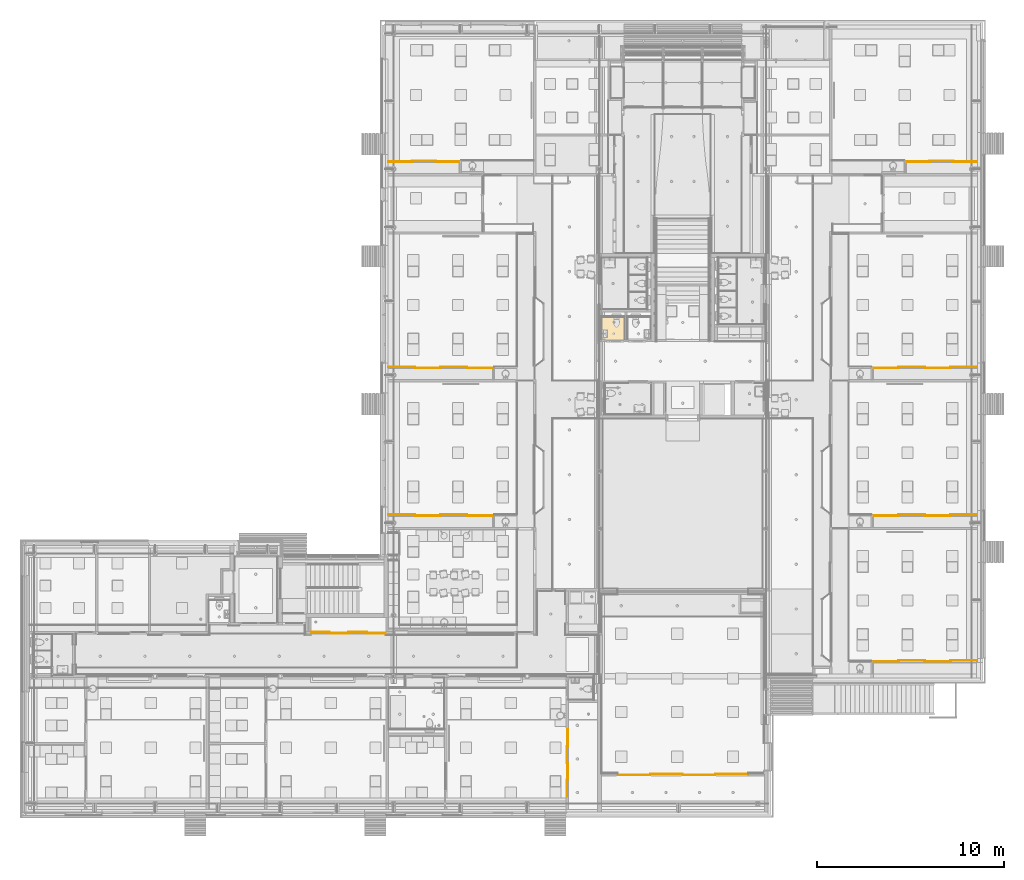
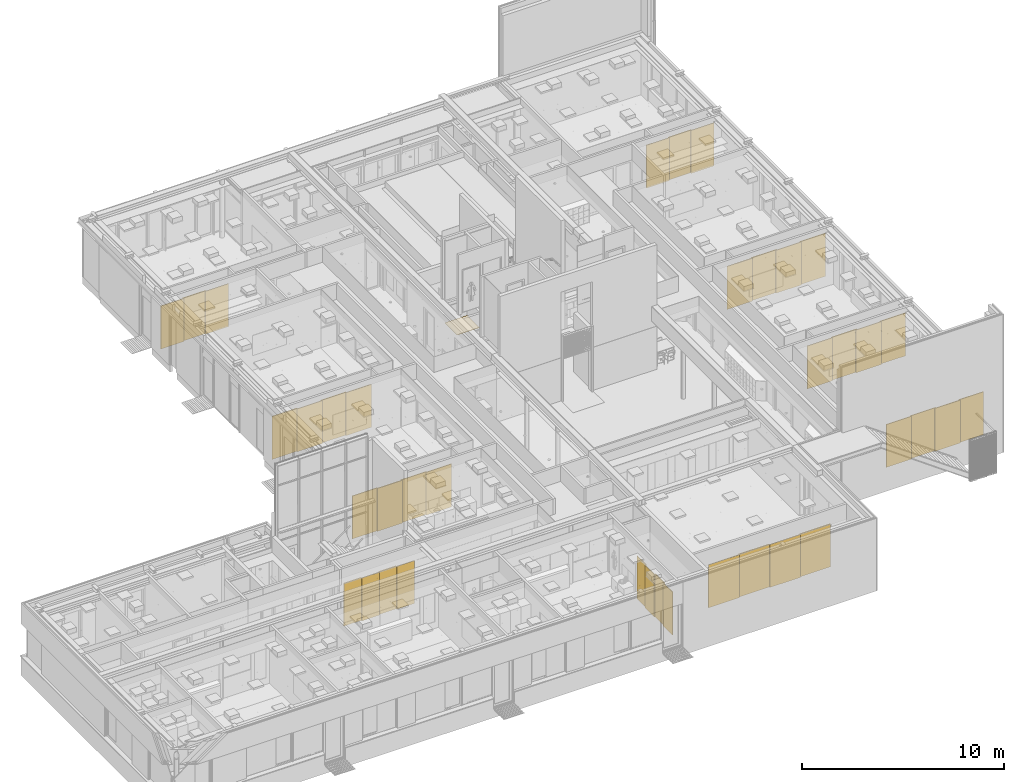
# One storey, part 151 of 347: 38 doors, 1 covering.
"""IFC2X3 building model written with IfcOpenShell, lengths in millimetres."""

from ifc_helpers import new_model, entity, si_unit, converted_unit, derived_unit, money_unit, direction, frame, origin_with_axes, place, context, subcontext, project, spatial, faceted_brep, source, transform, mapped, type_object, type_shapes, element, save


model = new_model("IFC2X3")

# Units and contexts
model_context = context("Model", 3, precision=0.01, world=origin_with_axes(), true_north=direction((0.0, 1.0)))
plan_context = context("Plan", 3, precision=0.01, world=origin_with_axes(), true_north=direction((0.0, 1.0)))
body_context = subcontext(model_context, "Body", "Model", "MODEL_VIEW")
ifc_project = project(units=[si_unit("LENGTHUNIT", "METRE", prefix="MILLI"), si_unit("AREAUNIT", "SQUARE_METRE"), si_unit("VOLUMEUNIT", "CUBIC_METRE"), converted_unit("PLANEANGLEUNIT", "DEGREE", entity("IfcPlaneAngleMeasure", 0.0174532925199), si_unit("PLANEANGLEUNIT", "RADIAN"), dimensions=[0, 0, 0, 0, 0, 0, 0]), money_unit("EUR"), converted_unit("TIMEUNIT", "Year", entity("IfcTimeMeasure", 31556926.0), si_unit("TIMEUNIT", "SECOND"), dimensions=[0, 0, 1, 0, 0, 0, 0]), si_unit("MASSUNIT", "GRAM", prefix="KILO"), si_unit("THERMODYNAMICTEMPERATUREUNIT", "DEGREE_CELSIUS"), si_unit("LUMINOUSINTENSITYUNIT", "LUMEN"), si_unit("ENERGYUNIT", "JOULE", prefix="MEGA"), derived_unit("THERMALCONDUCTANCEUNIT", [(si_unit("POWERUNIT", "WATT"), 1), (si_unit("LENGTHUNIT", "METRE"), -1), (si_unit("THERMODYNAMICTEMPERATUREUNIT", "KELVIN"), -1)]), derived_unit("SPECIFICHEATCAPACITYUNIT", [(si_unit("ENERGYUNIT", "JOULE"), 1), (si_unit("MASSUNIT", "GRAM", prefix="KILO"), -1), (si_unit("THERMODYNAMICTEMPERATUREUNIT", "KELVIN"), -1)]), derived_unit("MASSDENSITYUNIT", [(si_unit("MASSUNIT", "GRAM", prefix="KILO"), 1), (si_unit("VOLUMEUNIT", "CUBIC_METRE"), -1)])], contexts=[model_context, plan_context])

# Site, building, storey
site_placement = place(None, origin_with_axes())
site = spatial("IfcSite", under=ifc_project, at=site_placement, Name="Site", CompositionType="ELEMENT")
building_placement = place(site_placement, origin_with_axes())
building = spatial("IfcBuilding", under=site, at=building_placement, Name="Naam gebouw", CompositionType="ELEMENT")
storey_placement = place(building_placement, origin_with_axes())
storey = spatial("IfcBuildingStorey", under=building, at=storey_placement, Name="begane grond", CompositionType="ELEMENT", Elevation=0.0)

# Doors
door_style_1 = type_object("IfcDoorStyle", Name="DS1 voor wand 25", ConstructionType="NOTDEFINED", OperationType="SLIDING_TO_RIGHT", ParameterTakesPrecedence=False, Sizeable=False)
for number, where, z_axis, x_axis, name in (
    (1, (20150.0, 14462.5, 10.0), (0.0, 0.0, 1.0), (1.0, 0.0, 0.0), "32_01."),
    (2, (22150.0, 14462.5, 10.0), (0.0, 0.0, 1.0), (-1.0, 0.0, 0.0), "32_01."),
    (3, (22150.0, 14462.5, 10.0), (0.0, 0.0, 1.0), (1.0, 0.0, 0.0), "32_01."),
    (4, (24150.0, 14462.5, 10.0), (0.0, 0.0, 1.0), (-1.0, 0.0, 0.0), "32_01."),
):
    element("IfcDoor", number, at=place(storey_placement, frame(where, z_axis=z_axis, x_axis=x_axis)), inside=storey, type_object=door_style_1, Name=name, ObjectType="DOOR", OverallHeight=2590.0, OverallWidth=1000.0, context=body_context, shape_type="Brep", body=[
        faceted_brep([(1000.0, 45.5, 0.0), (1000.0, 5.5, 0.0), (0.0, 5.5, 0.0), (0.0, 45.5, 0.0), (1000.0, 45.5, 2590.0), (1000.0, 5.5, 2590.0), (0.0, 5.5, 2590.0), (0.0, 45.5, 2590.0)], [[[0, 1, 2, 3]], [[4, 5, 1, 0]], [[1, 5, 6, 2]], [[3, 2, 6, 7]], [[0, 3, 7, 4]], [[7, 6, 5, 4]]]),
    ])
shared_shape_1 = source(origin_with_axes(), body_context, "Body", "Brep", [
    faceted_brep([(450.0, 46.0, 0.0), (450.0, 6.0, 0.0), (-450.0, 6.0, 0.0), (-450.0, 46.0, 0.0), (450.0, 46.0, 2590.0), (450.0, 6.0, 2590.0), (-450.0, 6.0, 2590.0), (-450.0, 46.0, 2590.0)], [[[0, 1, 2, 3]], [[4, 5, 1, 0]], [[1, 5, 6, 2]], [[3, 2, 6, 7]], [[0, 3, 7, 4]], [[7, 6, 5, 4]]]),
])
door_1_placement = place(storey_placement, frame((33887.5, 9277.5, 10.0), z_axis=(0.0, 0.0, 1.0), x_axis=(0.0, -1.0, 0.0)))
element("IfcDoor", 5, at=door_1_placement, inside=storey, type_object=door_style_1, Name="32_01.", ObjectType="DOOR", OverallHeight=2590.0, OverallWidth=900.0, context=body_context, shape_type="MappedRepresentation", body=[
    mapped(shared_shape_1, transform((450.0, -0.499999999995, 0.0))),
])
door_2_placement = place(storey_placement, frame((33887.5, 7477.5, 10.0), z_axis=(0.0, 0.0, 1.0), x_axis=(0.0, 1.0, 0.0)))
element("IfcDoor", 6, at=door_2_placement, inside=storey, type_object=door_style_1, Name="32_01.", ObjectType="DOOR", OverallHeight=2590.0, OverallWidth=900.0, context=body_context, shape_type="MappedRepresentation", body=[
    mapped(shared_shape_1, transform((450.0, -0.500000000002, 0.0))),
])
door_3_placement = place(storey_placement, frame((33887.5, 7477.5, 10.0), z_axis=(0.0, 0.0, 1.0), x_axis=(0.0, -1.0, 0.0)))
element("IfcDoor", 7, at=door_3_placement, inside=storey, type_object=door_style_1, Name="32_01.", ObjectType="DOOR", OverallHeight=2590.0, OverallWidth=900.0, context=body_context, shape_type="MappedRepresentation", body=[
    mapped(shared_shape_1, transform((450.0, -0.499999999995, 0.0))),
])
door_4_placement = place(storey_placement, frame((33887.5, 5677.5, 10.0), z_axis=(0.0, 0.0, 1.0), x_axis=(0.0, 1.0, 0.0)))
element("IfcDoor", 8, at=door_4_placement, inside=storey, type_object=door_style_1, Name="32_01.", ObjectType="DOOR", OverallHeight=2590.0, OverallWidth=900.0, context=body_context, shape_type="MappedRepresentation", body=[
    mapped(shared_shape_1, transform((450.0, -0.500000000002, 0.0))),
])
door_style_2 = type_object("IfcDoorStyle", Name="DS1 voor wand 25", ConstructionType="NOTDEFINED", OperationType="SLIDING_TO_LEFT", ParameterTakesPrecedence=False, Sizeable=False)
shared_shape_2 = source(origin_with_axes(), body_context, "Body", "Brep", [
    faceted_brep([(-875.0, 46.0, 0.0), (875.0, 46.0, 0.0), (875.0, 6.0, 0.0), (-875.0, 6.0, 0.0), (-875.0, 46.0, 2590.0), (875.0, 46.0, 2590.0), (875.0, 6.0, 2590.0), (-875.0, 6.0, 2590.0)], [[[0, 1, 2, 3]], [[0, 4, 5, 1]], [[1, 5, 6, 2]], [[3, 2, 6, 7]], [[4, 0, 3, 7]], [[5, 4, 7, 6]]]),
])
door_5_placement = place(storey_placement, frame((41825.0, 6865.00953644, 10.0), z_axis=(0.0, 0.0, 1.0), x_axis=(-1.0, 0.0, 0.0)))
element("IfcDoor", 9, at=door_5_placement, inside=storey, type_object=door_style_2, Name="32_01.", ObjectType="DOOR", OverallHeight=2590.0, OverallWidth=1750.0, context=body_context, shape_type="MappedRepresentation", body=[
    mapped(shared_shape_2, transform((875.0, -0.500000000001, 0.0))),
])
door_6_placement = place(storey_placement, frame((41825.0, 6865.00953644, 10.0), z_axis=(0.0, 0.0, 1.0), x_axis=(1.0, 0.0, 0.0)))
element("IfcDoor", 10, at=door_6_placement, inside=storey, type_object=door_style_2, Name="32_01.", ObjectType="DOOR", OverallHeight=2590.0, OverallWidth=1750.0, context=body_context, shape_type="MappedRepresentation", body=[
    mapped(shared_shape_2, transform((875.0, -0.499999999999, 0.0))),
])
door_7_placement = place(storey_placement, frame((54425.0043771, 12949.9986591, 10.0), z_axis=(0.0, 0.0, 1.0), x_axis=(1.0, -3.20021193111e-07, 0.0)))
element("IfcDoor", 11, at=door_7_placement, inside=storey, type_object=door_style_2, Name="32_01.", ObjectType="DOOR", OverallHeight=2590.0, OverallWidth=1389.0, context=body_context, shape_type="Brep", body=[
    faceted_brep([(0.0, 45.5, 0.0), (1388.99561957, 45.5, 0.0), (1388.99561957, 5.5, 0.0), (0.0, 5.5, 0.0), (0.0, 45.5, 2590.0), (1388.99561957, 45.5, 2590.0), (1388.99561957, 5.5, 2590.0), (0.0, 5.5, 2590.0)], [[[0, 1, 2, 3]], [[0, 4, 5, 1]], [[1, 5, 6, 2]], [[3, 2, 6, 7]], [[4, 0, 3, 7]], [[5, 4, 7, 6]]]),
])
shared_shape_3 = source(origin_with_axes(), body_context, "Body", "Brep", [
    faceted_brep([(-875.0, 45.0, 0.0), (875.0, 45.0, 0.0), (875.0, 5.0, 0.0), (-875.0, 5.0, 0.0), (-875.0, 45.0, 2590.0), (875.0, 45.0, 2590.0), (875.0, 5.0, 2590.0), (-875.0, 5.0, 2590.0)], [[[0, 1, 2, 3]], [[0, 4, 5, 1]], [[1, 5, 6, 2]], [[3, 2, 6, 7]], [[4, 0, 3, 7]], [[5, 4, 7, 6]]]),
])
door_8_placement = place(storey_placement, frame((38325.0, 6865.00953644, 10.0), z_axis=(0.0, 0.0, 1.0), x_axis=(1.0, 0.0, 0.0)))
element("IfcDoor", 12, at=door_8_placement, inside=storey, type_object=door_style_2, Name="32_01.", ObjectType="DOOR", OverallHeight=2590.0, OverallWidth=1750.0, context=body_context, shape_type="MappedRepresentation", body=[
    mapped(shared_shape_3, transform((875.0, 0.500000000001, 0.0))),
])
door_9_placement = place(storey_placement, frame((38325.0, 6865.00953644, 10.0), z_axis=(0.0, 0.0, 1.0), x_axis=(-1.0, 0.0, 0.0)))
element("IfcDoor", 13, at=door_9_placement, inside=storey, type_object=door_style_2, Name="32_01.", ObjectType="DOOR", OverallHeight=2590.0, OverallWidth=1750.0, context=body_context, shape_type="MappedRepresentation", body=[
    mapped(shared_shape_3, transform((875.0, 0.5, 0.0))),
])
shared_shape_4 = source(origin_with_axes(), body_context, "Body", "Brep", [
    faceted_brep([(725.0, 46.0, 0.0), (725.0, 6.0, 0.0), (-725.0, 6.0, 0.0), (-725.0, 46.0, 0.0), (725.0, 46.0, 2590.0), (725.0, 6.0, 2590.0), (-725.0, 6.0, 2590.0), (-725.0, 46.0, 2590.0)], [[[0, 1, 2, 3]], [[4, 5, 1, 0]], [[1, 5, 6, 2]], [[3, 2, 6, 7]], [[0, 3, 7, 4]], [[7, 6, 5, 4]]]),
])
for number, where, z_axis, x_axis, name in (
    (14, (29914.9957507, 28687.5000004, 10.0), (0.0, 0.0, 1.0), (-0.999999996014, 8.92857139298e-05, 0.0), "32_01."),
    (15, (29915.0045543, 20762.5, 10.0), (0.0, 0.0, 1.0), (-0.999999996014, 8.92857139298e-05, 0.0), "32_01."),
):
    element("IfcDoor", number, at=place(storey_placement, frame(where, z_axis=z_axis, x_axis=x_axis)), inside=storey, type_object=door_style_1, Name=name, ObjectType="DOOR", OverallHeight=2590.0, OverallWidth=1450.0, context=body_context, shape_type="MappedRepresentation", body=[
        mapped(shared_shape_4, transform((725.0, -0.500000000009, 0.0))),
    ])
shared_shape_5 = source(origin_with_axes(), body_context, "Body", "Brep", [
    faceted_brep([(725.0, 46.0, 0.0), (725.0, 6.0, 0.0), (-725.0, 6.0, 0.0), (-725.0, 46.0, 0.0), (725.0, 46.0, 2590.0), (725.0, 6.0, 2590.0), (-725.0, 6.0, 2590.0), (-725.0, 46.0, 2590.0)], [[[0, 1, 2, 3]], [[4, 5, 1, 0]], [[1, 5, 6, 2]], [[3, 2, 6, 7]], [[0, 3, 7, 4]], [[7, 6, 5, 4]]]),
])
door_10_placement = place(storey_placement, frame((27065.0001517, 28687.7544643, 10.0), z_axis=(0.0, 0.0, 1.0), x_axis=(0.999999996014, -8.92857139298e-05, 0.0)))
element("IfcDoor", 16, at=door_10_placement, inside=storey, type_object=door_style_1, Name="32_01.", ObjectType="DOOR", OverallHeight=2590.0, OverallWidth=1450.0, context=body_context, shape_type="MappedRepresentation", body=[
    mapped(shared_shape_5, transform((725.0, -0.499999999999, 0.0))),
])
door_11_placement = place(storey_placement, frame((27065.0089553, 20762.7544639, 10.0), z_axis=(0.0, 0.0, 1.0), x_axis=(0.999999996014, -8.92857139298e-05, 0.0)))
element("IfcDoor", 17, at=door_11_placement, inside=storey, type_object=door_style_1, Name="32_01.", ObjectType="DOOR", OverallHeight=2590.0, OverallWidth=1450.0, context=body_context, shape_type="MappedRepresentation", body=[
    mapped(shared_shape_5, transform((725.0, -0.500000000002, 0.0))),
])
shared_shape_6 = source(origin_with_axes(), body_context, "Body", "Brep", [
    faceted_brep([(725.0, 46.0, 0.0), (725.0, 6.0, 0.0), (-725.0, 6.0, 0.0), (-725.0, 46.0, 0.0), (725.0, 46.0, 2590.0), (725.0, 6.0, 2590.0), (-725.0, 6.0, 2590.0), (-725.0, 46.0, 2590.0)], [[[0, 1, 2, 3]], [[4, 5, 1, 0]], [[1, 5, 6, 2]], [[3, 2, 6, 7]], [[0, 3, 7, 4]], [[7, 6, 5, 4]]]),
])
for number, where, z_axis, x_axis, name in (
    (18, (27125.0001515, 28687.7491071, 10.0), (0.0, 0.0, 1.0), (-0.999999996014, 8.92857139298e-05, 0.0), "32_01."),
    (19, (27125.008955, 20762.7491067, 10.0), (0.0, 0.0, 1.0), (-0.999999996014, 8.92857139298e-05, 0.0), "32_01."),
):
    element("IfcDoor", number, at=place(storey_placement, frame(where, z_axis=z_axis, x_axis=x_axis)), inside=storey, type_object=door_style_1, Name=name, ObjectType="DOOR", OverallHeight=2590.0, OverallWidth=1450.0, context=body_context, shape_type="MappedRepresentation", body=[
        mapped(shared_shape_6, transform((725.0, -0.500000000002, 0.0))),
    ])
shared_shape_7 = source(origin_with_axes(), body_context, "Body", "Brep", [
    faceted_brep([(725.0, 46.0, 0.0), (725.0, 6.0, 0.0), (-725.0, 6.0, 0.0), (-725.0, 46.0, 0.0), (725.0, 46.0, 2590.0), (725.0, 6.0, 2590.0), (-725.0, 6.0, 2590.0), (-725.0, 46.0, 2590.0)], [[[0, 1, 2, 3]], [[4, 5, 1, 0]], [[1, 5, 6, 2]], [[3, 2, 6, 7]], [[0, 3, 7, 4]], [[7, 6, 5, 4]]]),
])
for number, where, z_axis, x_axis, name in (
    (20, (24274.9957511, 28688.0035718, 10.0), (0.0, 0.0, 1.0), (0.999999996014, -8.92857139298e-05, 0.0), "32_01."),
    (21, (24275.0045546, 20763.0035714, 10.0), (0.0, 0.0, 1.0), (0.999999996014, -8.92857139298e-05, 0.0), "32_01."),
):
    element("IfcDoor", number, at=place(storey_placement, frame(where, z_axis=z_axis, x_axis=x_axis)), inside=storey, type_object=door_style_1, Name=name, ObjectType="DOOR", OverallHeight=2590.0, OverallWidth=1450.0, context=body_context, shape_type="MappedRepresentation", body=[
        mapped(shared_shape_7, transform((725.0, -0.499999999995, 0.0))),
    ])
shared_shape_8 = source(origin_with_axes(), body_context, "Body", "Brep", [
    faceted_brep([(660.0, 46.0, 0.0), (660.0, 6.0, 0.0), (-660.0, 6.0, 0.0), (-660.0, 46.0, 0.0), (660.0, 46.0, 2590.0), (660.0, 6.0, 2590.0), (-660.0, 6.0, 2590.0), (-660.0, 46.0, 2590.0)], [[[0, 1, 2, 3]], [[4, 5, 1, 0]], [[1, 5, 6, 2]], [[3, 2, 6, 7]], [[0, 3, 7, 4]], [[7, 6, 5, 4]]]),
])
door_12_placement = place(storey_placement, frame((28139.9956257, 39737.5000004, 10.0), z_axis=(0.0, 0.0, 1.0), x_axis=(-0.999999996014, 8.92857139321e-05, 0.0)))
element("IfcDoor", 22, at=door_12_placement, inside=storey, type_object=door_style_1, Name="32_01.", ObjectType="DOOR", OverallHeight=2590.0, OverallWidth=1320.0, context=body_context, shape_type="MappedRepresentation", body=[
    mapped(shared_shape_8, transform((660.0, -0.499999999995, 0.0))),
])
shared_shape_9 = source(origin_with_axes(), body_context, "Body", "Brep", [
    faceted_brep([(660.0, 46.0, 0.0), (660.0, 6.0, 0.0), (-660.0, 6.0, 0.0), (-660.0, 46.0, 0.0), (660.0, 46.0, 2590.0), (660.0, 6.0, 2590.0), (-660.0, 6.0, 2590.0), (-660.0, 46.0, 2590.0)], [[[0, 1, 2, 3]], [[4, 5, 1, 0]], [[1, 5, 6, 2]], [[3, 2, 6, 7]], [[0, 3, 7, 4]], [[7, 6, 5, 4]]]),
])
door_13_placement = place(storey_placement, frame((25547.4955988, 39737.7314736, 10.0), z_axis=(0.0, 0.0, 1.0), x_axis=(0.999999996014, -8.92857139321e-05, 0.0)))
element("IfcDoor", 23, at=door_13_placement, inside=storey, type_object=door_style_1, Name="32_01.", ObjectType="DOOR", OverallHeight=2590.0, OverallWidth=1320.0, context=body_context, shape_type="MappedRepresentation", body=[
    mapped(shared_shape_9, transform((660.0, -0.500000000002, 0.0))),
])
shared_shape_10 = source(origin_with_axes(), body_context, "Body", "Brep", [
    faceted_brep([(-660.0, 46.0, 0.0), (660.0, 46.0, 0.0), (660.0, 6.0, 0.0), (-660.0, 6.0, 0.0), (-660.0, 46.0, 2590.0), (660.0, 46.0, 2590.0), (660.0, 6.0, 2590.0), (-660.0, 6.0, 2590.0)], [[[0, 1, 2, 3]], [[0, 4, 5, 1]], [[1, 5, 6, 2]], [[3, 2, 6, 7]], [[4, 0, 3, 7]], [[5, 4, 7, 6]]]),
])
door_14_placement = place(storey_placement, frame((25594.9955613, 39737.7272325, 10.0), z_axis=(0.0, 0.0, 1.0), x_axis=(-0.999999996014, 8.92857139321e-05, 0.0)))
element("IfcDoor", 24, at=door_14_placement, inside=storey, type_object=door_style_2, Name="32_01.", ObjectType="DOOR", OverallHeight=2590.0, OverallWidth=1320.0, context=body_context, shape_type="MappedRepresentation", body=[
    mapped(shared_shape_10, transform((660.0, -0.500000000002, 0.0))),
])
shared_shape_11 = source(origin_with_axes(), body_context, "Body", "Brep", [
    faceted_brep([(-725.0, 46.0, 0.0), (725.0, 46.0, 0.0), (725.0, 6.0, 0.0), (-725.0, 6.0, 0.0), (-725.0, 46.0, 2590.0), (725.0, 46.0, 2590.0), (725.0, 6.0, 2590.0), (-725.0, 6.0, 2590.0)], [[[0, 1, 2, 3]], [[0, 4, 5, 1]], [[1, 5, 6, 2]], [[3, 2, 6, 7]], [[4, 0, 3, 7]], [[5, 4, 7, 6]]]),
])
for number, where, z_axis, x_axis, name in (
    (25, (51685.0043685, 28687.6294647, 10.0), (0.0, 0.0, 1.0), (-0.999999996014, -8.92857139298e-05, 0.0), "32_01."),
    (26, (51685.0043685, 20762.6294647, 10.0), (0.0, 0.0, 1.0), (-0.999999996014, -8.92857139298e-05, 0.0), "32_01."),
):
    element("IfcDoor", number, at=place(storey_placement, frame(where, z_axis=z_axis, x_axis=x_axis)), inside=storey, type_object=door_style_2, Name=name, ObjectType="DOOR", OverallHeight=2590.0, OverallWidth=1450.0, context=body_context, shape_type="MappedRepresentation", body=[
        mapped(shared_shape_11, transform((725.0, -0.499999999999, 0.0))),
    ])
door_15_placement = place(storey_placement, frame((51685.004355, 12949.999536, 10.0), z_axis=(0.0, 0.0, 1.0), x_axis=(-1.0, 3.20021193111e-07, 0.0)))
element("IfcDoor", 27, at=door_15_placement, inside=storey, type_object=door_style_2, Name="32_01.", ObjectType="DOOR", OverallHeight=2590.0, OverallWidth=1450.0, context=body_context, shape_type="MappedRepresentation", body=[
    mapped(shared_shape_11, transform((725.0, -0.500000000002, 0.0))),
])
shared_shape_12 = source(origin_with_axes(), body_context, "Body", "Brep", [
    faceted_brep([(-725.0, 46.0, 0.0), (725.0, 46.0, 0.0), (725.0, 6.0, 0.0), (-725.0, 6.0, 0.0), (-725.0, 46.0, 2590.0), (725.0, 46.0, 2590.0), (725.0, 6.0, 2590.0), (-725.0, 6.0, 2590.0)], [[[0, 1, 2, 3]], [[0, 4, 5, 1]], [[1, 5, 6, 2]], [[3, 2, 6, 7]], [[4, 0, 3, 7]], [[5, 4, 7, 6]]]),
])
door_16_placement = place(storey_placement, frame((51634.9999791, 28687.625, 10.0), z_axis=(0.0, 0.0, 1.0), x_axis=(0.999999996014, 8.92857139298e-05, 0.0)))
element("IfcDoor", 28, at=door_16_placement, inside=storey, type_object=door_style_2, Name="32_01.", ObjectType="DOOR", OverallHeight=2590.0, OverallWidth=1450.0, context=body_context, shape_type="MappedRepresentation", body=[
    mapped(shared_shape_12, transform((725.0, -0.499999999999, 0.0))),
])
door_17_placement = place(storey_placement, frame((51634.9999791, 20762.625, 10.0), z_axis=(0.0, 0.0, 1.0), x_axis=(0.999999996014, 8.92857139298e-05, 0.0)))
element("IfcDoor", 29, at=door_17_placement, inside=storey, type_object=door_style_2, Name="32_01.", ObjectType="DOOR", OverallHeight=2590.0, OverallWidth=1450.0, context=body_context, shape_type="MappedRepresentation", body=[
    mapped(shared_shape_12, transform((725.0, -0.500000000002, 0.0))),
])
door_18_placement = place(storey_placement, frame((51634.9999653, 12949.999552, 10.0), z_axis=(0.0, 0.0, 1.0), x_axis=(1.0, -3.20021193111e-07, 0.0)))
element("IfcDoor", 30, at=door_18_placement, inside=storey, type_object=door_style_2, Name="32_01.", ObjectType="DOOR", OverallHeight=2590.0, OverallWidth=1450.0, context=body_context, shape_type="MappedRepresentation", body=[
    mapped(shared_shape_12, transform((725.0, -0.499999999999, 0.0))),
])
shared_shape_13 = source(origin_with_axes(), body_context, "Body", "Brep", [
    faceted_brep([(-725.0, 46.0, 0.0), (725.0, 46.0, 0.0), (725.0, 6.0, 0.0), (-725.0, 6.0, 0.0), (-725.0, 46.0, 2590.0), (725.0, 46.0, 2590.0), (725.0, 6.0, 2590.0), (-725.0, 6.0, 2590.0)], [[[0, 1, 2, 3]], [[0, 4, 5, 1]], [[1, 5, 6, 2]], [[3, 2, 6, 7]], [[4, 0, 3, 7]], [[5, 4, 7, 6]]]),
])
door_19_placement = place(storey_placement, frame((54474.9999678, 28687.8785714, 10.0), z_axis=(0.0, 0.0, 1.0), x_axis=(-0.999999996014, -8.92857139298e-05, 0.0)))
element("IfcDoor", 31, at=door_19_placement, inside=storey, type_object=door_style_2, Name="32_01.", ObjectType="DOOR", OverallHeight=2590.0, OverallWidth=1450.0, context=body_context, shape_type="MappedRepresentation", body=[
    mapped(shared_shape_13, transform((725.0, -0.499999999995, 0.0))),
])
door_20_placement = place(storey_placement, frame((54474.9999678, 20762.8785714, 10.0), z_axis=(0.0, 0.0, 1.0), x_axis=(-0.999999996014, -8.92857139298e-05, 0.0)))
element("IfcDoor", 32, at=door_20_placement, inside=storey, type_object=door_style_2, Name="32_01.", ObjectType="DOOR", OverallHeight=2590.0, OverallWidth=1450.0, context=body_context, shape_type="MappedRepresentation", body=[
    mapped(shared_shape_13, transform((725.0, -0.499999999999, 0.0))),
])
door_21_placement = place(storey_placement, frame((54474.9999653, 12949.9986431, 10.0), z_axis=(0.0, 0.0, 1.0), x_axis=(-1.0, 3.20021193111e-07, 0.0)))
element("IfcDoor", 33, at=door_21_placement, inside=storey, type_object=door_style_2, Name="32_01.", ObjectType="DOOR", OverallHeight=2590.0, OverallWidth=1450.0, context=body_context, shape_type="MappedRepresentation", body=[
    mapped(shared_shape_13, transform((725.0, -0.500000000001, 0.0))),
])
shared_shape_14 = source(origin_with_axes(), body_context, "Body", "Brep", [
    faceted_brep([(-725.0, 46.0, 0.0), (725.0, 46.0, 0.0), (725.0, 6.0, 0.0), (-725.0, 6.0, 0.0), (-725.0, 46.0, 2590.0), (725.0, 46.0, 2590.0), (725.0, 6.0, 2590.0), (-725.0, 6.0, 2590.0)], [[[0, 1, 2, 3]], [[0, 4, 5, 1]], [[1, 5, 6, 2]], [[3, 2, 6, 7]], [[4, 0, 3, 7]], [[5, 4, 7, 6]]]),
])
door_22_placement = place(storey_placement, frame((54425.0043797, 28687.8741075, 10.0), z_axis=(0.0, 0.0, 1.0), x_axis=(0.999999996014, 8.92857139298e-05, 0.0)))
element("IfcDoor", 34, at=door_22_placement, inside=storey, type_object=door_style_2, Name="32_01.", ObjectType="DOOR", OverallHeight=2590.0, OverallWidth=1450.0, context=body_context, shape_type="MappedRepresentation", body=[
    mapped(shared_shape_14, transform((725.0, -0.499999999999, 0.0))),
])
door_23_placement = place(storey_placement, frame((54425.0043797, 20762.8741075, 10.0), z_axis=(0.0, 0.0, 1.0), x_axis=(0.999999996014, 8.92857139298e-05, 0.0)))
element("IfcDoor", 35, at=door_23_placement, inside=storey, type_object=door_style_2, Name="32_01.", ObjectType="DOOR", OverallHeight=2590.0, OverallWidth=1450.0, context=body_context, shape_type="MappedRepresentation", body=[
    mapped(shared_shape_14, transform((725.0, -0.499999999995, 0.0))),
])
shared_shape_15 = source(origin_with_axes(), body_context, "Body", "Brep", [
    faceted_brep([(-660.0, 46.0, 0.0), (660.0, 46.0, 0.0), (660.0, 6.0, 0.0), (-660.0, 6.0, 0.0), (-660.0, 46.0, 2590.0), (660.0, 46.0, 2590.0), (660.0, 6.0, 2590.0), (-660.0, 6.0, 2590.0)], [[[0, 1, 2, 3]], [[0, 4, 5, 1]], [[1, 5, 6, 2]], [[3, 2, 6, 7]], [[4, 0, 3, 7]], [[5, 4, 7, 6]]]),
])
door_24_placement = place(storey_placement, frame((53330.004369, 39737.6178575, 10.0), z_axis=(0.0, 0.0, 1.0), x_axis=(-0.999999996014, -8.92857139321e-05, 0.0)))
element("IfcDoor", 36, at=door_24_placement, inside=storey, type_object=door_style_2, Name="32_01.", ObjectType="DOOR", OverallHeight=2590.0, OverallWidth=1320.0, context=body_context, shape_type="MappedRepresentation", body=[
    mapped(shared_shape_15, transform((660.0, -0.500000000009, 0.0))),
])
shared_shape_16 = source(origin_with_axes(), body_context, "Body", "Brep", [
    faceted_brep([(-660.0, 46.0, 0.0), (660.0, 46.0, 0.0), (660.0, 6.0, 0.0), (-660.0, 6.0, 0.0), (-660.0, 46.0, 2590.0), (660.0, 46.0, 2590.0), (660.0, 6.0, 2590.0), (-660.0, 6.0, 2590.0)], [[[0, 1, 2, 3]], [[0, 4, 5, 1]], [[1, 5, 6, 2]], [[3, 2, 6, 7]], [[4, 0, 3, 7]], [[5, 4, 7, 6]]]),
])
type_shapes(door_style_2, [shared_shape_2, shared_shape_3, shared_shape_10, shared_shape_11, shared_shape_12, shared_shape_13, shared_shape_14, shared_shape_15, shared_shape_16])
door_25_placement = place(storey_placement, frame((53282.5044065, 39737.6136165, 10.0), z_axis=(0.0, 0.0, 1.0), x_axis=(0.999999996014, 8.92857139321e-05, 0.0)))
element("IfcDoor", 37, at=door_25_placement, inside=storey, type_object=door_style_2, Name="32_01.", ObjectType="DOOR", OverallHeight=2590.0, OverallWidth=1320.0, context=body_context, shape_type="MappedRepresentation", body=[
    mapped(shared_shape_16, transform((660.0, -0.500000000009, 0.0))),
])
shared_shape_17 = source(origin_with_axes(), body_context, "Body", "Brep", [
    faceted_brep([(660.0, 46.0, 0.0), (660.0, 6.0, 0.0), (-660.0, 6.0, 0.0), (-660.0, 46.0, 0.0), (660.0, 46.0, 2590.0), (660.0, 6.0, 2590.0), (-660.0, 6.0, 2590.0), (-660.0, 46.0, 2590.0)], [[[0, 1, 2, 3]], [[4, 5, 1, 0]], [[1, 5, 6, 2]], [[3, 2, 6, 7]], [[0, 3, 7, 4]], [[7, 6, 5, 4]]]),
])
type_shapes(door_style_1, [shared_shape_1, shared_shape_4, shared_shape_5, shared_shape_6, shared_shape_7, shared_shape_8, shared_shape_9, shared_shape_17])
door_26_placement = place(storey_placement, frame((55875.0044335, 39737.8450897, 10.0), z_axis=(0.0, 0.0, 1.0), x_axis=(-0.999999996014, -8.92857139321e-05, 0.0)))
element("IfcDoor", 38, at=door_26_placement, inside=storey, type_object=door_style_1, Name="32_01.", ObjectType="DOOR", OverallHeight=2590.0, OverallWidth=1320.0, context=body_context, shape_type="MappedRepresentation", body=[
    mapped(shared_shape_17, transform((660.0, -0.500000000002, 0.0))),
])

# Covering
covering_type = type_object("IfcCoveringType", Name="Ceiling Editor INT_v2.01", PredefinedType="CEILING")
shared_shape_18 = source(origin_with_axes(), body_context, "Body", "Brep", [
    faceted_brep([(0.0, 1199.9, 0.0), (0.0, 1199.9, 20.0), (367.4, 1199.9, 20.0), (367.4, 1199.9, 0.0), (0.0, 900.0, 0.0), (0.0, 900.0, 20.0), (0.0, 300.0, 20.0), (0.0, 0.100000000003, 20.0), (367.4, 0.100000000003, 20.0), (0.0, 600.0, 20.0), (367.4, 0.100000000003, 0.0), (0.0, 0.100000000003, 0.0), (0.0, 300.0, 0.0), (0.0, 600.0, 0.0)], [[[0, 1, 2, 3]], [[1, 0, 4, 5]], [[6, 7, 8, 2, 1, 5, 9]], [[8, 10, 3, 2]], [[4, 0, 3, 10, 11, 12, 13]], [[9, 5, 4, 13]], [[7, 6, 12, 11]], [[7, 11, 10, 8]], [[6, 9, 13, 12]]]),
    faceted_brep([(967.4, 0.100000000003, 20.0), (967.4, 0.100000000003, 0.0), (967.4, 1199.9, 0.0), (967.4, 1199.9, 20.0), (367.6, 0.100000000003, 20.0), (367.6, 0.100000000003, 0.0), (367.6, 1199.9, 0.0), (367.6, 1199.9, 20.0)], [[[0, 1, 2, 3]], [[4, 5, 1, 0]], [[2, 1, 5, 6]], [[3, 2, 6, 7]], [[4, 0, 3, 7]], [[7, 6, 5, 4]]]),
    faceted_brep([(1267.5, 900.0, 20.0), (1267.5, 1199.9, 20.0), (967.6, 1199.9, 20.0), (967.6, 0.100000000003, 20.0), (1267.5, 0.100000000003, 20.0), (1267.5, 300.0, 20.0), (1267.5, 600.0, 20.0), (1267.5, 900.0, 0.0), (1267.5, 1199.9, 0.0), (967.6, 1199.9, 0.0), (967.6, 0.100000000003, 0.0), (1267.5, 0.100000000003, 0.0), (1267.5, 300.0, 0.0), (1267.5, 600.0, 0.0)], [[[0, 1, 2, 3, 4, 5, 6]], [[1, 0, 7, 8]], [[1, 8, 9, 2]], [[2, 9, 10, 3]], [[11, 4, 3, 10]], [[5, 4, 11, 12]], [[6, 5, 12, 13]], [[0, 6, 13, 7]], [[12, 11, 10, 9, 8, 7, 13]]]),
    faceted_brep([(355.0, 25.0, -5.0), (355.0, 25.0, 0.0), (355.0, 1175.0, 0.0), (355.0, 1175.0, -5.0), (25.0, 25.0, -5.0), (25.0, 25.0, 0.0), (1267.5, 1187.5, 0.0), (1267.5, 1200.0, 0.0), (950.625, 1200.0, 0.0), (633.75, 1200.0, 0.0), (316.875, 1200.0, 0.0), (0.0, 1200.0, 0.0), (0.0, 1187.5, 0.0), (0.0, 12.5, 0.0), (0.0, 0.0, 0.0), (316.875, 0.0, 0.0), (633.75, 0.0, 0.0), (950.625, 0.0, 0.0), (1267.5, 0.0, 0.0), (1267.5, 12.5, 0.0), (380.0, 25.0, 0.0), (380.0, 1175.0, 0.0), (955.0, 1175.0, 0.0), (955.0, 25.0, 0.0), (25.0, 1175.0, 0.0), (1242.5, 25.0, 0.0), (980.0, 25.0, 0.0), (980.0, 1175.0, 0.0), (1242.5, 1175.0, 0.0), (25.0, 1175.0, -5.0), (1267.5, 12.5, -5.0), (1267.5, 0.0, -5.0), (950.625, 0.0, -5.0), (633.75, 0.0, -5.0), (316.875, 0.0, -5.0), (0.0, 0.0, -5.0), (0.0, 12.5, -5.0), (0.0, 1187.5, -5.0), (0.0, 1200.0, -5.0), (316.875, 1200.0, -5.0), (633.75, 1200.0, -5.0), (950.625, 1200.0, -5.0), (1267.5, 1200.0, -5.0), (1267.5, 1187.5, -5.0), (955.0, 25.0, -5.0), (955.0, 1175.0, -5.0), (380.0, 1175.0, -5.0), (380.0, 25.0, -5.0), (1242.5, 25.0, -5.0), (1242.5, 1175.0, -5.0), (980.0, 1175.0, -5.0), (980.0, 25.0, -5.0)], [[[0, 1, 2, 3]], [[1, 0, 4, 5]], [[6, 7, 8, 9, 10, 11, 12, 13, 14, 15, 16, 17, 18, 19], [20, 21, 22, 23], [1, 5, 24, 2], [25, 26, 27, 28]], [[3, 2, 24, 29]], [[30, 31, 32, 33, 34, 35, 36, 37, 38, 39, 40, 41, 42, 43], [44, 45, 46, 47], [0, 3, 29, 4], [48, 49, 50, 51]], [[29, 24, 5, 4]], [[30, 43, 42, 7, 6, 19, 18, 31]], [[42, 41, 8, 7]], [[41, 40, 9, 8]], [[40, 39, 10, 9]], [[39, 38, 11, 10]], [[12, 11, 38, 37, 36, 35, 14, 13]], [[35, 34, 15, 14]], [[33, 16, 15, 34]], [[33, 32, 17, 16]], [[31, 18, 17, 32]], [[20, 47, 46, 21]], [[45, 22, 21, 46]], [[44, 23, 22, 45]], [[20, 23, 44, 47]], [[25, 48, 51, 26]], [[26, 51, 50, 27]], [[49, 28, 27, 50]], [[48, 25, 28, 49]]]),
])
type_shapes(covering_type, [shared_shape_18])
covering_placement = place(storey_placement, frame((35705.0, 30199.9999277, 2600.0), z_axis=(0.0, 0.0, 1.0), x_axis=(1.0, 0.0, 0.0)))
element("IfcCovering", 39, at=covering_placement, inside=storey, type_object=covering_type, Name="45 Plafondafwerkingen_77 garderobe", PredefinedType="CEILING", context=body_context, shape_type="MappedRepresentation", body=[
    mapped(shared_shape_18, transform((0.0, 0.0, 0.0))),
])

save(model, "model.ifc")
